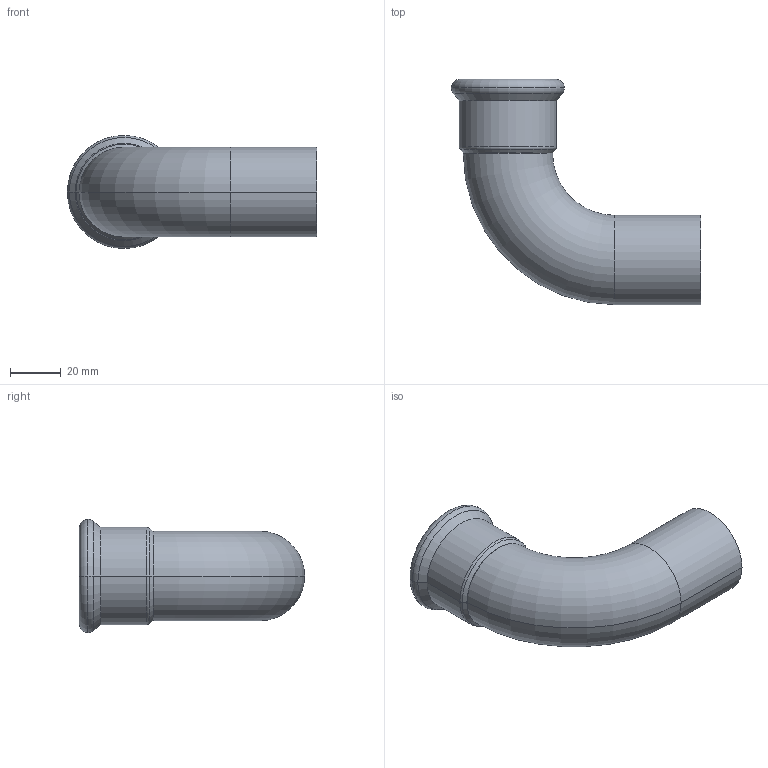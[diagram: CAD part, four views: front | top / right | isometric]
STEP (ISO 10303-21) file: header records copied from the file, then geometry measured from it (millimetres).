
FILE_DESCRIPTION(('OneSpaceDesigner STEP Export'),'2;1');
FILE_NAME('R2711 35x35.stp','2010-06-09T15:06:59',(''),(''),'OneSpace Designer STEP processor for AP214 (Solid Model)','OneSpace Modeling 15.00A 14-Mar-2007 (C) CoCreate Software GmbH','');
FILE_SCHEMA(('AUTOMOTIVE_DESIGN { 1 0 10303 214 1 1 1 1 }'));
Length unit declared in the file: millimetre
Products named in the file (2): R2711_35x35
Assembly tree (1 placements, depth 2):
  R2711_35x35
    R2711_35x35
Bounding box: 98.17 x 88.69 x 44.55 mm (x, y, z)
Volume: 24920.9 mm3; surface area: 29891.3 mm2
Topology: 1 solids, 1 shells, 68 faces, 166 edges, 105 vertices
Faces by surface type: plane 31, cylinder 23, torus 10, cone 4
Entity records: 1788 total; most frequent: ORIENTED_EDGE 332, CARTESIAN_POINT 285, DIRECTION 267, EDGE_CURVE 166, VERTEX_POINT 105, VECTOR 93, LINE 93, AXIS2_PLACEMENT_3D 87
